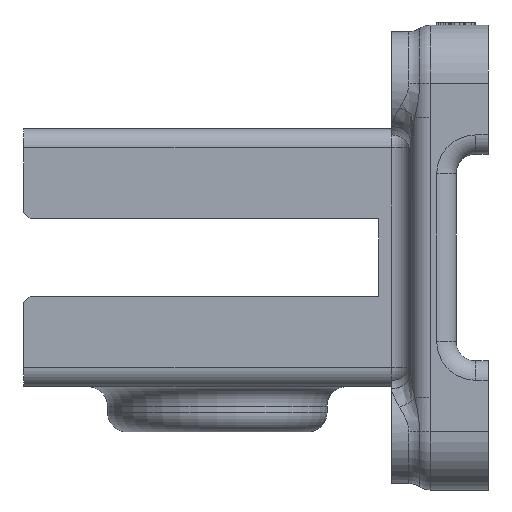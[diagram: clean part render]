
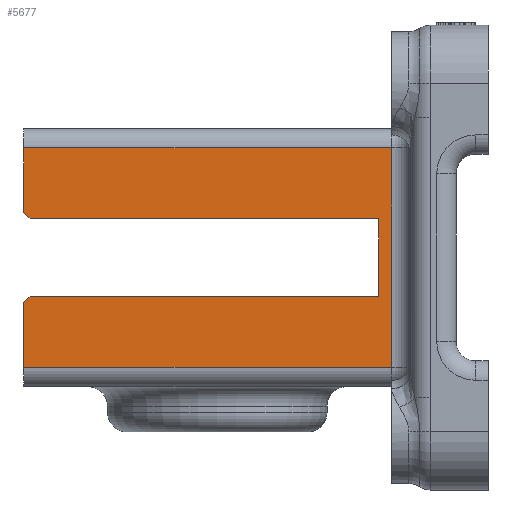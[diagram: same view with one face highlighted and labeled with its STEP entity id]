
A CAD part, left-side view. The second image highlights one B-rep face of the part: STEP entity #5677.
In plain terms, the highlighted planar face has unit normal (-1, 0, 0).
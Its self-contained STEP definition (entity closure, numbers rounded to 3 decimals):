
#471=PLANE('',#6064);
#928=LINE('',#9539,#1418);
#950=LINE('',#10233,#1440);
#951=LINE('',#10237,#1441);
#952=LINE('',#10239,#1442);
#953=LINE('',#10241,#1443);
#954=LINE('',#10243,#1444);
#955=LINE('',#10245,#1445);
#956=LINE('',#10247,#1446);
#957=LINE('',#10249,#1447);
#958=LINE('',#10250,#1448);
#1418=VECTOR('',#7044,10.);
#1440=VECTOR('',#7236,10.);
#1441=VECTOR('',#7241,10.);
#1442=VECTOR('',#7242,10.);
#1443=VECTOR('',#7243,10.);
#1444=VECTOR('',#7244,10.);
#1445=VECTOR('',#7245,10.);
#1446=VECTOR('',#7246,10.);
#1447=VECTOR('',#7247,10.);
#1448=VECTOR('',#7248,10.);
#1809=FACE_OUTER_BOUND('',#2159,.T.);
#2159=EDGE_LOOP('',(#5183,#5184,#5185,#5186,#5187,#5188,#5189,#5190,#5191,
#5192));
#2804=VERTEX_POINT('',#9531);
#2806=VERTEX_POINT('',#9537);
#2873=VERTEX_POINT('',#10232);
#2874=VERTEX_POINT('',#10236);
#2875=VERTEX_POINT('',#10238);
#2876=VERTEX_POINT('',#10240);
#2877=VERTEX_POINT('',#10242);
#2878=VERTEX_POINT('',#10244);
#2879=VERTEX_POINT('',#10246);
#2880=VERTEX_POINT('',#10248);
#3556=EDGE_CURVE('',#2806,#2804,#928,.T.);
#3670=EDGE_CURVE('',#2804,#2873,#950,.T.);
#3672=EDGE_CURVE('',#2874,#2806,#951,.T.);
#3673=EDGE_CURVE('',#2874,#2875,#952,.T.);
#3674=EDGE_CURVE('',#2875,#2876,#953,.T.);
#3675=EDGE_CURVE('',#2876,#2877,#954,.T.);
#3676=EDGE_CURVE('',#2877,#2878,#955,.T.);
#3677=EDGE_CURVE('',#2878,#2879,#956,.T.);
#3678=EDGE_CURVE('',#2879,#2880,#957,.T.);
#3679=EDGE_CURVE('',#2880,#2873,#958,.T.);
#5183=ORIENTED_EDGE('',*,*,#3556,.F.);
#5184=ORIENTED_EDGE('',*,*,#3672,.F.);
#5185=ORIENTED_EDGE('',*,*,#3673,.T.);
#5186=ORIENTED_EDGE('',*,*,#3674,.T.);
#5187=ORIENTED_EDGE('',*,*,#3675,.T.);
#5188=ORIENTED_EDGE('',*,*,#3676,.T.);
#5189=ORIENTED_EDGE('',*,*,#3677,.T.);
#5190=ORIENTED_EDGE('',*,*,#3678,.T.);
#5191=ORIENTED_EDGE('',*,*,#3679,.T.);
#5192=ORIENTED_EDGE('',*,*,#3670,.F.);
#5677=ADVANCED_FACE('',(#1809),#471,.T.);
#6064=AXIS2_PLACEMENT_3D('',#10235,#7239,#7240);
#7044=DIRECTION('',(0.,0.,-1.));
#7236=DIRECTION('',(0.,1.,0.));
#7239=DIRECTION('center_axis',(-1.,0.,0.));
#7240=DIRECTION('ref_axis',(0.,0.,1.));
#7241=DIRECTION('',(0.,-1.,0.));
#7242=DIRECTION('',(0.,0.,-1.));
#7243=DIRECTION('',(0.,-0.707,-0.707));
#7244=DIRECTION('',(0.,-1.,0.));
#7245=DIRECTION('',(0.,0.,-1.));
#7246=DIRECTION('',(0.,1.,0.));
#7247=DIRECTION('',(0.,0.707,-0.707));
#7248=DIRECTION('',(0.,0.,-1.));
#9531=CARTESIAN_POINT('',(-35.,15.,-17.));
#9537=CARTESIAN_POINT('',(-35.,15.,17.));
#9539=CARTESIAN_POINT('',(-35.,15.,-18.));
#10232=CARTESIAN_POINT('',(-35.,72.,-17.));
#10233=CARTESIAN_POINT('',(-35.,27.,-17.));
#10235=CARTESIAN_POINT('Origin',(-35.,42.,0.));
#10236=CARTESIAN_POINT('',(-35.,72.,17.));
#10237=CARTESIAN_POINT('',(-35.,57.,17.));
#10238=CARTESIAN_POINT('',(-35.,72.,7.));
#10239=CARTESIAN_POINT('',(-35.,72.,7.));
#10240=CARTESIAN_POINT('',(-35.,71.,6.));
#10241=CARTESIAN_POINT('',(-35.,71.,6.));
#10242=CARTESIAN_POINT('',(-35.,17.,6.));
#10243=CARTESIAN_POINT('',(-35.,17.,6.));
#10244=CARTESIAN_POINT('',(-35.,17.,-6.));
#10245=CARTESIAN_POINT('',(-35.,17.,-6.));
#10246=CARTESIAN_POINT('',(-35.,71.,-6.));
#10247=CARTESIAN_POINT('',(-35.,71.,-6.));
#10248=CARTESIAN_POINT('',(-35.,72.,-7.));
#10249=CARTESIAN_POINT('',(-35.,72.,-7.));
#10250=CARTESIAN_POINT('',(-35.,72.,-20.));
